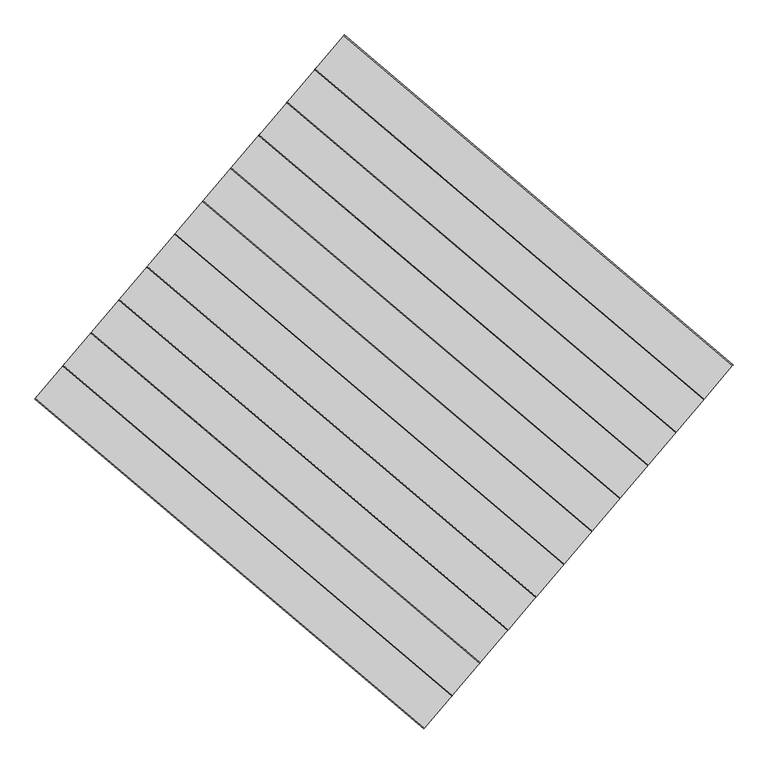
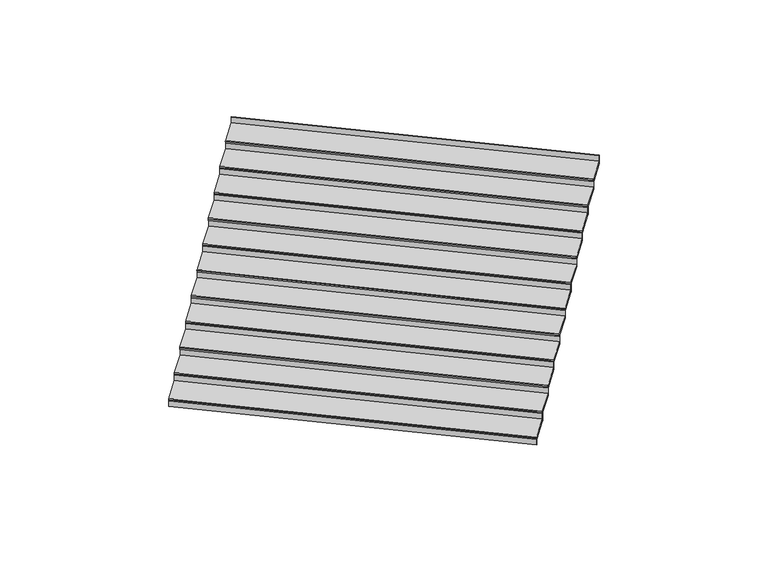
"""IFC4 building model written with IfcOpenShell, lengths in millimetres: stair flight geometry, Wood Steps with 50 mm Tread 20 mm Nosing 13 mm Riser."""

from ifc_helpers import new_model, si_unit, point, frame, frame_2d, origin, origin_with_axes, place, context, project, spatial, polyline, circle_curve, trimmed, segment, composite_curve, outline, extrude, source, transform, mapped, element, save


def stair_flight_22e2cf58(model_context):
    return source(origin(), model_context, "Body", "SweptSolid", [
        extrude(outline(composite_curve([segment(polyline([(0.0, -598.410772), (0.0, 0.0)]), True, "CONTINUOUS"), segment(trimmed(circle_curve(frame_2d((10.0, 0.0)), 10.0), [point((0.0, 0.0))], [point((20.0, 0.0))], False, "CARTESIAN"), True, "CONTINUOUS"), segment(polyline([(20.0, 0.0), (50.0, 0.0), (50.0, -598.410772), (0.0, -598.410772)]), True, "CONTINUOUS")], self_intersect=False)), frame((852947.5119264, 68819.8615168, 179.2941176), z_axis=(-0.7621877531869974, 0.6473560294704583, 0.0), x_axis=(0.0, 0.0, -1.0)), (0.0, 0.0, 1.0), 6942.0931593),
        extrude(outline(polyline([(852962.077437, 68837.0107413), (852953.9854867, 68827.4833944), (847662.8070992, 73321.4892582), (847670.8990495, 73331.0166051), (852962.077437, 68837.0107413)])), origin_with_axes(), (0.0, 0.0, 1.0), 129.2941176),
        extrude(outline(polyline([(853342.9886981, 69285.4902255), (853334.8967477, 69275.9628786), (848043.7183602, 73769.9687424), (848051.8103106, 73779.4960893), (853342.9886981, 69285.4902255)])), frame((0.0, 0.0, 129.2941176), z_axis=(0.0, 0.0, 1.0), x_axis=(1.0, 0.0, 0.0)), (0.0, 0.0, 1.0), 179.2941176),
        extrude(outline(composite_curve([segment(polyline([(0.0, -598.410772), (0.0, 0.0)]), True, "CONTINUOUS"), segment(trimmed(circle_curve(frame_2d((10.0, 0.0)), 10.0), [point((0.0, 0.0))], [point((20.0, 0.0))], False, "CARTESIAN"), True, "CONTINUOUS"), segment(polyline([(20.0, 0.0), (50.0, 0.0), (50.0, -598.410772), (0.0, -598.410772)]), True, "CONTINUOUS")], self_intersect=False)), frame((853328.4231874, 69268.3410011, 358.5882353), z_axis=(-0.7621877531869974, 0.6473560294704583, 0.0), x_axis=(0.0, 0.0, -1.0)), (0.0, 0.0, 1.0), 6942.0931593),
        extrude(outline(polyline([(853723.8999591, 69733.9697098), (853715.8080088, 69724.4423629), (848424.6296213, 74218.4482267), (848432.7215716, 74227.9755736), (853723.8999591, 69733.9697098)])), frame((0.0, 0.0, 308.5882353), z_axis=(0.0, 0.0, 1.0), x_axis=(1.0, 0.0, 0.0)), (0.0, 0.0, 1.0), 179.2941176),
        extrude(outline(composite_curve([segment(polyline([(0.0, -598.410772), (0.0, 0.0)]), True, "CONTINUOUS"), segment(trimmed(circle_curve(frame_2d((10.0, 0.0)), 10.0), [point((0.0, 0.0))], [point((20.0, 0.0))], False, "CARTESIAN"), True, "CONTINUOUS"), segment(polyline([(20.0, 0.0), (50.0, 0.0), (50.0, -598.410772), (0.0, -598.410772)]), True, "CONTINUOUS")], self_intersect=False)), frame((853709.3344485, 69716.8204853, 537.8823529), z_axis=(-0.7621877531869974, 0.6473560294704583, 0.0), x_axis=(0.0, 0.0, -1.0)), (0.0, 0.0, 1.0), 6942.0931593),
        extrude(outline(polyline([(854104.8112202, 70182.449194), (854096.7192698, 70172.9218471), (848805.5408823, 74666.9277109), (848813.6328327, 74676.4550579), (854104.8112202, 70182.449194)])), frame((0.0, 0.0, 487.8823529), z_axis=(0.0, 0.0, 1.0), x_axis=(1.0, 0.0, 0.0)), (0.0, 0.0, 1.0), 179.2941176),
        extrude(outline(composite_curve([segment(polyline([(0.0, -598.410772), (0.0, 0.0)]), True, "CONTINUOUS"), segment(trimmed(circle_curve(frame_2d((10.0, 0.0)), 10.0), [point((0.0, 0.0))], [point((20.0, 0.0))], False, "CARTESIAN"), True, "CONTINUOUS"), segment(polyline([(20.0, 0.0), (50.0, 0.0), (50.0, -598.410772), (0.0, -598.410772)]), True, "CONTINUOUS")], self_intersect=False)), frame((854090.2457095, 70165.2999696, 717.1764706), z_axis=(-0.7621877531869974, 0.6473560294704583, 0.0), x_axis=(0.0, 0.0, -1.0)), (0.0, 0.0, 1.0), 6942.0931593),
        extrude(outline(polyline([(854485.7224812, 70630.9286783), (854477.6305309, 70621.4013314), (849186.4521434, 75115.4071952), (849194.5440937, 75124.9345421), (854485.7224812, 70630.9286783)])), frame((0.0, 0.0, 667.1764706), z_axis=(0.0, 0.0, 1.0), x_axis=(1.0, 0.0, 0.0)), (0.0, 0.0, 1.0), 179.2941176),
        extrude(outline(composite_curve([segment(polyline([(0.0, -598.410772), (0.0, 0.0)]), True, "CONTINUOUS"), segment(trimmed(circle_curve(frame_2d((10.0, 0.0)), 10.0), [point((0.0, 0.0))], [point((20.0, 0.0))], False, "CARTESIAN"), True, "CONTINUOUS"), segment(polyline([(20.0, 0.0), (50.0, 0.0), (50.0, -598.410772), (0.0, -598.410772)]), True, "CONTINUOUS")], self_intersect=False)), frame((854471.1569706, 70613.7794538, 896.4705882), z_axis=(-0.7621877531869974, 0.6473560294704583, 0.0), x_axis=(0.0, 0.0, -1.0)), (0.0, 0.0, 1.0), 6942.0931593),
        extrude(outline(polyline([(854866.6337423, 71079.4081625), (854858.5417919, 71069.8808156), (849567.3634044, 75563.8866794), (849575.4553548, 75573.4140264), (854866.6337423, 71079.4081625)])), frame((0.0, 0.0, 846.4705882), z_axis=(0.0, 0.0, 1.0), x_axis=(1.0, 0.0, 0.0)), (0.0, 0.0, 1.0), 179.2941176),
        extrude(outline(composite_curve([segment(polyline([(0.0, -598.410772), (0.0, 0.0)]), True, "CONTINUOUS"), segment(trimmed(circle_curve(frame_2d((10.0, 0.0)), 10.0), [point((0.0, 0.0))], [point((20.0, 0.0))], False, "CARTESIAN"), True, "CONTINUOUS"), segment(polyline([(20.0, 0.0), (50.0, 0.0), (50.0, -598.410772), (0.0, -598.410772)]), True, "CONTINUOUS")], self_intersect=False)), frame((854852.0682316, 71062.2589381, 1075.7647059), z_axis=(-0.7621877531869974, 0.6473560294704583, 0.0), x_axis=(0.0, 0.0, -1.0)), (0.0, 0.0, 1.0), 6942.0931593),
        extrude(outline(polyline([(855247.5450033, 71527.8876468), (855239.453053, 71518.3602999), (849948.2746655, 76012.3661637), (849956.3666159, 76021.8935106), (855247.5450033, 71527.8876468)])), frame((0.0, 0.0, 1025.7647059), z_axis=(0.0, 0.0, 1.0), x_axis=(1.0, 0.0, 0.0)), (0.0, 0.0, 1.0), 179.2941176),
        extrude(outline(composite_curve([segment(polyline([(0.0, -598.4107719), (0.0, 0.0)]), True, "CONTINUOUS"), segment(trimmed(circle_curve(frame_2d((10.0, 0.0)), 10.0), [point((0.0, 0.0))], [point((20.0, 0.0))], False, "CARTESIAN"), True, "CONTINUOUS"), segment(polyline([(20.0, 0.0), (50.0, 0.0), (50.0, -598.4107719), (0.0, -598.4107719)]), True, "CONTINUOUS")], self_intersect=False)), frame((855232.9794927, 71510.7384224, 1255.0588235), z_axis=(-0.7621877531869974, 0.6473560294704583, 0.0), x_axis=(0.0, 0.0, -1.0)), (0.0, 0.0, 1.0), 6942.0931593),
        extrude(outline(polyline([(855628.4562644, 71976.3671311), (855620.364314, 71966.8397841), (850329.1859265, 76460.8456479), (850337.2778769, 76470.3729949), (855628.4562644, 71976.3671311)])), frame((0.0, 0.0, 1205.0588235), z_axis=(0.0, 0.0, 1.0), x_axis=(1.0, 0.0, 0.0)), (0.0, 0.0, 1.0), 179.2941176),
        extrude(outline(composite_curve([segment(polyline([(0.0, -598.410772), (0.0, 0.0)]), True, "CONTINUOUS"), segment(trimmed(circle_curve(frame_2d((10.0, 0.0)), 10.0), [point((0.0, 0.0))], [point((20.0, 0.0))], False, "CARTESIAN"), True, "CONTINUOUS"), segment(polyline([(20.0, 0.0), (50.0, 0.0), (50.0, -598.410772), (0.0, -598.410772)]), True, "CONTINUOUS")], self_intersect=False)), frame((855613.8907537, 71959.2179066, 1434.3529412), z_axis=(-0.7621877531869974, 0.6473560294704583, 0.0), x_axis=(0.0, 0.0, -1.0)), (0.0, 0.0, 1.0), 6942.0931593),
        extrude(outline(polyline([(856009.3675254, 72424.8466153), (856001.2755751, 72415.3192684), (850710.0971876, 76909.3251322), (850718.189138, 76918.8524791), (856009.3675254, 72424.8466153)])), frame((0.0, 0.0, 1384.3529412), z_axis=(0.0, 0.0, 1.0), x_axis=(1.0, 0.0, 0.0)), (0.0, 0.0, 1.0), 179.2941176),
        extrude(outline(composite_curve([segment(polyline([(0.0, -598.4107719), (0.0, 0.0)]), True, "CONTINUOUS"), segment(trimmed(circle_curve(frame_2d((10.0, 0.0)), 10.0), [point((0.0, 0.0))], [point((20.0, 0.0))], False, "CARTESIAN"), True, "CONTINUOUS"), segment(polyline([(20.0, 0.0), (50.0, 0.0), (50.0, -598.4107719), (0.0, -598.4107719)]), True, "CONTINUOUS")], self_intersect=False)), frame((855994.8020148, 72407.6973909, 1613.6470588), z_axis=(-0.7621877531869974, 0.6473560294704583, 0.0), x_axis=(0.0, 0.0, -1.0)), (0.0, 0.0, 1.0), 6942.0931593),
        extrude(outline(polyline([(856390.2787865, 72873.3260996), (856382.1868361, 72863.7987526), (851091.0084486, 77357.8046165), (851099.100399, 77367.3319634), (856390.2787865, 72873.3260996)])), frame((0.0, 0.0, 1563.6470588), z_axis=(0.0, 0.0, 1.0), x_axis=(1.0, 0.0, 0.0)), (0.0, 0.0, 1.0), 179.2941176),
        extrude(outline(composite_curve([segment(polyline([(0.0, -598.410772), (0.0, 0.0)]), True, "CONTINUOUS"), segment(trimmed(circle_curve(frame_2d((10.0, 0.0)), 10.0), [point((0.0, 0.0))], [point((20.0, 0.0))], False, "CARTESIAN"), True, "CONTINUOUS"), segment(polyline([(20.0, 0.0), (50.0, 0.0), (50.0, -598.410772), (0.0, -598.410772)]), True, "CONTINUOUS")], self_intersect=False)), frame((856375.7132758, 72856.1768751, 1792.9411765), z_axis=(-0.7621877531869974, 0.6473560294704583, 0.0), x_axis=(0.0, 0.0, -1.0)), (0.0, 0.0, 1.0), 6942.0931593),
        extrude(outline(polyline([(856771.1900476, 73321.8055838), (856763.0980972, 73312.2782369), (851471.9197097, 77806.2841007), (851480.0116601, 77815.8114476), (856771.1900476, 73321.8055838)])), frame((0.0, 0.0, 1742.9411765), z_axis=(0.0, 0.0, 1.0), x_axis=(1.0, 0.0, 0.0)), (0.0, 0.0, 1.0), 179.2941176),
        extrude(outline(polyline([(857152.1013086, 73770.2850681), (857144.0093582, 73760.7577211), (851852.8309707, 78254.763585), (851860.9229211, 78264.2909319), (857152.1013086, 73770.2850681)])), frame((0.0, 0.0, 1922.2352941), z_axis=(0.0, 0.0, 1.0), x_axis=(1.0, 0.0, 0.0)), (0.0, 0.0, 1.0), 179.2941176),
        extrude(outline(composite_curve([segment(polyline([(0.0, -598.4107719), (0.0, 0.0)]), True, "CONTINUOUS"), segment(trimmed(circle_curve(frame_2d((10.0, 0.0)), 10.0), [point((0.0, 0.0))], [point((20.0, 0.0))], False, "CARTESIAN"), True, "CONTINUOUS"), segment(polyline([(20.0, 0.0), (50.0, 0.0), (50.0, -598.4107719), (0.0, -598.4107719)]), True, "CONTINUOUS")], self_intersect=False)), frame((856756.6245369, 73304.6563594, 1972.2352941), z_axis=(-0.7621877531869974, 0.6473560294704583, 0.0), x_axis=(0.0, 0.0, -1.0)), (0.0, 0.0, 1.0), 6942.0931593),
    ])


if __name__ == "__main__":
    model = new_model("IFC4")
    model_context = context("Model", 3, world=origin())
    ifc_project = project(units=[si_unit("LENGTHUNIT", "METRE", prefix="MILLI")], contexts=[model_context])
    site = spatial("IfcSite", under=ifc_project)
    building = spatial("IfcBuilding", under=site)
    placement = place(None, origin())
    stair_flight_shape = stair_flight_22e2cf58(model_context)
    element("IfcStairFlight", 1, ObjectType="Wood Steps with 50 mm Tread 20 mm Nosing 13 mm Riser", at=placement, inside=building, context=model_context, shape_type="MappedRepresentation", body=[
        mapped(stair_flight_shape, transform((0.0, 0.0, 0.0), x_axis=(1.0, 0.0, 0.0), y_axis=(0.0, 1.0, 0.0), z_axis=(0.0, 0.0, 1.0))),
    ])
    save(model, "model.ifc")
